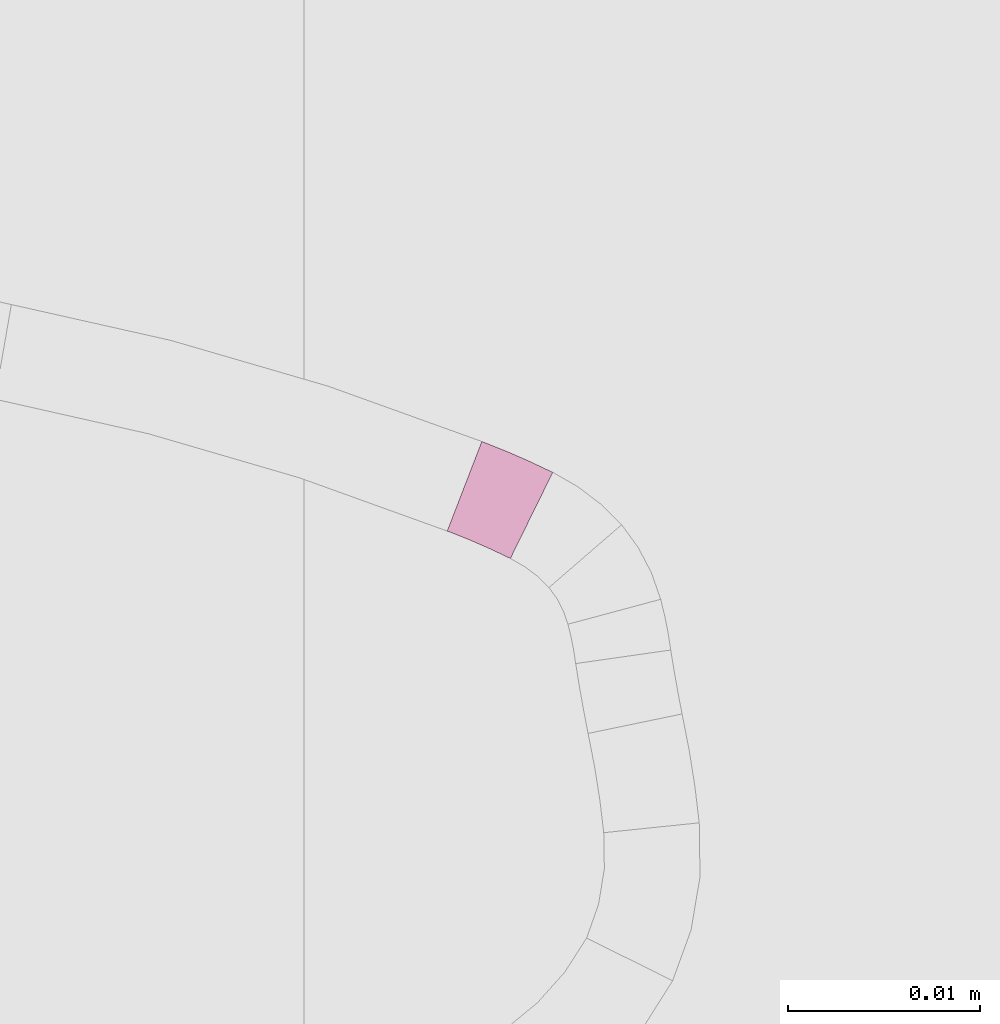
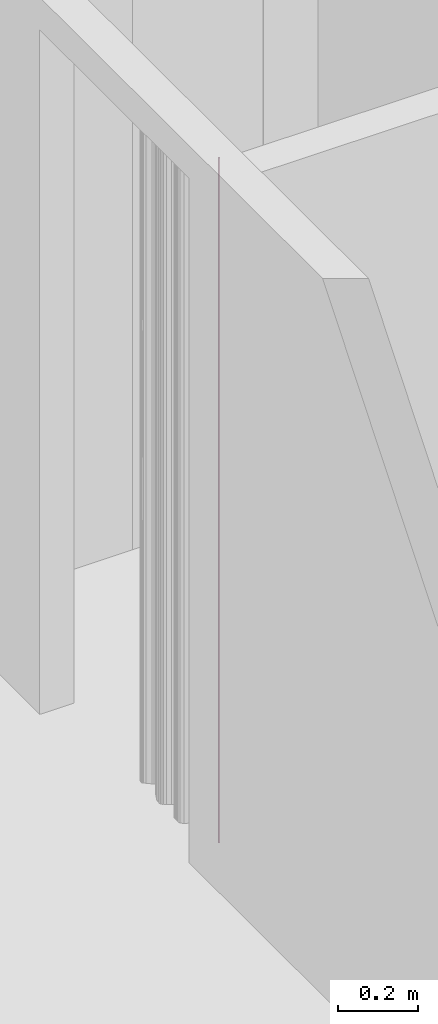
# One storey, part 188 of 418: 1 furnishing.
"""IFC2X3 building model written with IfcOpenShell, lengths in millimetres."""

from ifc_helpers import new_model, entity, si_unit, converted_unit, derived_unit, money_unit, point, direction, frame, frame_2d, origin_with_axes, place, context, subcontext, project, spatial, polyline, circle_curve, parameter, trimmed, segment, composite_curve, outline, extrude, material, type_object, element, save


model = new_model("IFC2X3")

# Units and contexts
model_context = context("Model", 3, precision=0.01, world=origin_with_axes(), true_north=direction((0.0, 1.0)))
body_context = subcontext(model_context, "Body", "Model", "MODEL_VIEW")
ifc_project = project(units=[si_unit("LENGTHUNIT", "METRE", prefix="MILLI"), si_unit("AREAUNIT", "SQUARE_METRE"), si_unit("VOLUMEUNIT", "CUBIC_METRE"), converted_unit("PLANEANGLEUNIT", "DEGREE", entity("IfcPlaneAngleMeasure", 0.0174532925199), si_unit("PLANEANGLEUNIT", "RADIAN"), dimensions=[0, 0, 0, 0, 0, 0, 0]), si_unit("SOLIDANGLEUNIT", "STERADIAN"), money_unit("EUR"), converted_unit("TIMEUNIT", "Year", entity("IfcTimeMeasure", 31556926.0), si_unit("TIMEUNIT", "SECOND"), dimensions=[0, 0, 1, 0, 0, 0, 0]), si_unit("MASSUNIT", "GRAM", prefix="KILO"), si_unit("THERMODYNAMICTEMPERATUREUNIT", "DEGREE_CELSIUS"), si_unit("LUMINOUSINTENSITYUNIT", "LUMEN"), si_unit("ENERGYUNIT", "JOULE", prefix="MEGA"), derived_unit("THERMALCONDUCTANCEUNIT", [(si_unit("POWERUNIT", "WATT"), 1), (si_unit("LENGTHUNIT", "METRE"), -1), (si_unit("THERMODYNAMICTEMPERATUREUNIT", "KELVIN"), -1)]), derived_unit("SPECIFICHEATCAPACITYUNIT", [(si_unit("ENERGYUNIT", "JOULE"), 1), (si_unit("MASSUNIT", "GRAM", prefix="KILO"), -1), (si_unit("THERMODYNAMICTEMPERATUREUNIT", "KELVIN"), -1)]), derived_unit("MASSDENSITYUNIT", [(si_unit("MASSUNIT", "GRAM", prefix="KILO"), 1), (si_unit("VOLUMEUNIT", "CUBIC_METRE"), -1)])], contexts=[model_context])

# Site, building, storey
site_placement = place(None, origin_with_axes())
site = spatial("IfcSite", under=ifc_project, at=site_placement, Name="Paldiski mnt 245/1, Tallinn, Harjumaa", CompositionType="COMPLEX")
building_placement = place(site_placement, origin_with_axes())
building = spatial("IfcBuilding", under=site, at=building_placement, Name="RKAS Hoone üldnimetus (kasutust iseloomustav) -> IFC Project Manager -> SOLIBRI", CompositionType="ELEMENT")
storey_placement = place(building_placement, origin_with_axes())
storey = spatial("IfcBuildingStorey", under=building, at=storey_placement, Name="Esimene korrus", CompositionType="ELEMENT", Elevation=0.0)

# Furnishing
ifc_material = material(Name="KON-00_GENEERILINE - KONSTRUKTSIOON")
furniture_type = type_object("IfcFurnitureType", Name="KON-00_GENEERILINE - KONSTRUKTSIOON 5", AssemblyPlace="NOTDEFINED")
furnishing_placement = place(storey_placement, frame((-45011.6452736, -1331.38333484, 0.0), z_axis=(0.0, 0.0, 1.0), x_axis=(-0.895887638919, 0.444280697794, 0.0)))
element("IfcFurnishingElement", 1, at=furnishing_placement, inside=storey, type_object=furniture_type, material=ifc_material, Name="SS-43", context=body_context, shape_type="SweptSolid", body=[
    extrude(outline(composite_curve([segment(trimmed(circle_curve(frame_2d((0.0, 35.786509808), x_axis=(0.000377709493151, -0.999999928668)), 40.786509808), [point((0.0154054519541, -4.99999709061)), parameter(0.0)], [point((4.04229946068, -4.79919207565)), parameter(5.6662087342)], True, "CARTESIAN"), True, "CONTINUOUS"), segment(polyline([(4.04229946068, -4.79919207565), (3.58409649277, 0.179929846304)]), True, "CONTINUOUS"), segment(trimmed(circle_curve(frame_2d((0.0, 35.786509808), x_axis=(0.0, -1.0)), 35.786509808), [point((3.58409649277, 0.179929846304)), parameter(5.74793297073)], [point((4.97379915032e-10, 0.0)), parameter(0.0)], False, "CARTESIAN"), True, "CONTINUOUS"), segment(polyline([(4.97379915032e-10, 0.0), (0.0154054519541, -4.99999709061)]), True, "CONTINUOUS")], self_intersect=False)), origin_with_axes(), (0.0, 0.0, 1.0), 2100.0),
])

save(model, "model.ifc")
